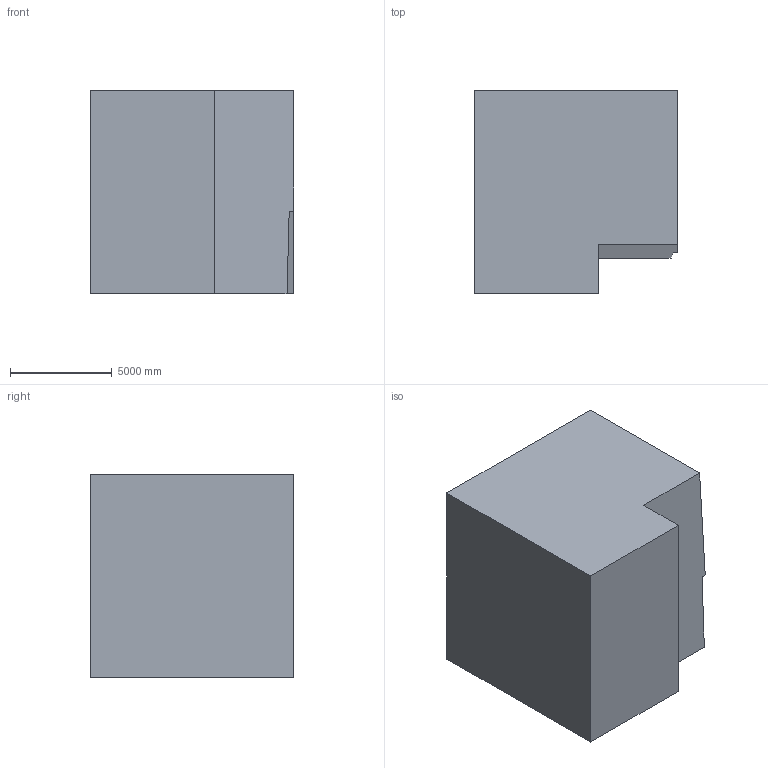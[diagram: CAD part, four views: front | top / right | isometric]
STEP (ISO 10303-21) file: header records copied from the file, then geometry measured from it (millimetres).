
FILE_DESCRIPTION (( 'STEP AP203' ), '1' );
FILE_NAME ('225.STEP', '2022-09-07T12:21:13', ( 'user' ), ( '' ), 'SwSTEP 2.0', 'SolidWorks 2021', '' );
FILE_SCHEMA (( 'CONFIG_CONTROL_DESIGN' ));
Length unit declared in the file: centimetre
Products named in the file (1): 225
Bounding box: 10000 x 10000 x 10000 mm (x, y, z)
Volume: 918319509416.9 mm3; surface area: 582853894.7 mm2
Topology: 1 solids, 1 shells, 10 faces, 24 edges, 16 vertices
Faces by surface type: plane 10
Entity records: 365 total; most frequent: CARTESIAN_POINT 51, ORIENTED_EDGE 48, DIRECTION 46, LINE 24, VECTOR 24, EDGE_CURVE 24, VERTEX_POINT 16, AXIS2_PLACEMENT_3D 11
